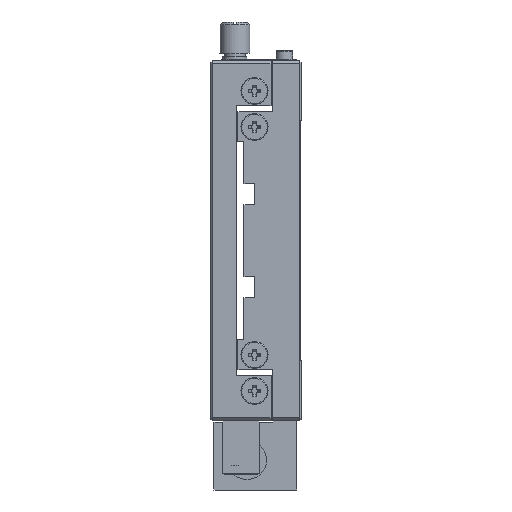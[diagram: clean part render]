
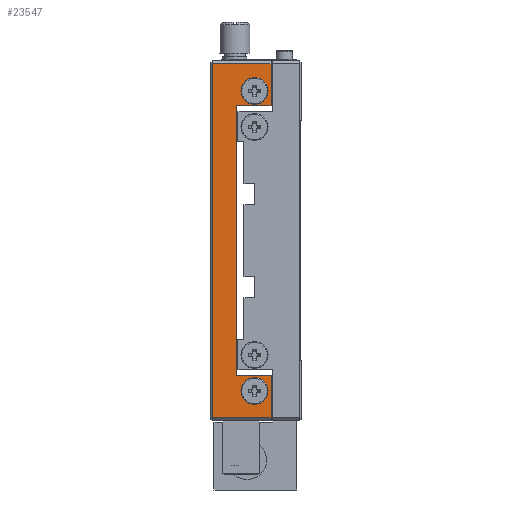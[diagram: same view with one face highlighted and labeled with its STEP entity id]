
A CAD part, left-side view. The second image highlights one B-rep face of the part: STEP entity #23547.
In plain terms, the highlighted planar face has unit normal (-1, 0, 0) as drawn and (0, 0, -1) by its records, which use the part's own axes.
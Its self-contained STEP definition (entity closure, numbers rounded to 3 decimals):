
#21 = CARTESIAN_POINT ( 'NONE',  ( 3.974, 41.182, -60. ) ) ;
#112 = DIRECTION ( 'NONE',  ( 0., -1., 0. ) ) ;
#177 = CARTESIAN_POINT ( 'NONE',  ( -86.826, 35.182, -60. ) ) ;
#593 = ORIENTED_EDGE ( 'NONE', *, *, #16649, .F. ) ;
#819 = CARTESIAN_POINT ( 'NONE',  ( 13.174, 43.582, -60. ) ) ;
#912 = VERTEX_POINT ( 'NONE', #20630 ) ;
#1522 = DIRECTION ( 'NONE',  ( 0., 1., 0. ) ) ;
#1585 = CARTESIAN_POINT ( 'NONE',  ( -95.226, 35.182, -60. ) ) ;
#1705 = DIRECTION ( 'NONE',  ( 0., -1., 0. ) ) ;
#1710 =( BOUNDED_CURVE ( )  B_SPLINE_CURVE ( 3, ( #4092, #22175, #12152, #177 ),
 .UNSPECIFIED., .F., .T. ) 
 B_SPLINE_CURVE_WITH_KNOTS ( ( 4, 4 ),
 ( 0.5, 1. ),
 .UNSPECIFIED. ) 
 CURVE ( )  GEOMETRIC_REPRESENTATION_ITEM ( )  RATIONAL_B_SPLINE_CURVE ( ( 1., 0.333, 0.333, 1. ) ) 
 REPRESENTATION_ITEM ( '' )  );
#2469 = CARTESIAN_POINT ( 'NONE',  ( -86.026, 41.182, -60. ) ) ;
#2964 = FACE_BOUND ( 'NONE', #6874, .T. ) ;
#3274 = VECTOR ( 'NONE', #112, 1000. ) ;
#3504 = ORIENTED_EDGE ( 'NONE', *, *, #15263, .F. ) ;
#3599 = ORIENTED_EDGE ( 'NONE', *, *, #24778, .F. ) ;
#3789 = CARTESIAN_POINT ( 'NONE',  ( -86.026, 29.682, -60. ) ) ;
#4030 = VERTEX_POINT ( 'NONE', #25716 ) ;
#4092 = CARTESIAN_POINT ( 'NONE',  ( -95.226, 35.182, -60. ) ) ;
#4316 = VECTOR ( 'NONE', #17989, 1000. ) ;
#4327 = VERTEX_POINT ( 'NONE', #17891 ) ;
#4351 = LINE ( 'NONE', #20490, #12818 ) ;
#4496 = VERTEX_POINT ( 'NONE', #1585 ) ;
#4499 = LINE ( 'NONE', #8591, #3274 ) ;
#4644 = CARTESIAN_POINT ( 'NONE',  ( 13.174, 26.782, -60. ) ) ;
#4734 = VECTOR ( 'NONE', #1522, 1000. ) ;
#5542 = LINE ( 'NONE', #18415, #4316 ) ;
#5949 = AXIS2_PLACEMENT_3D ( 'NONE', #6496, #10512, #24577 ) ;
#5968 = LINE ( 'NONE', #9372, #24279 ) ;
#6496 = CARTESIAN_POINT ( 'NONE',  ( 18.974, 49.682, -60. ) ) ;
#6874 = EDGE_LOOP ( 'NONE', ( #24183, #10684 ) ) ;
#7616 = FACE_BOUND ( 'NONE', #20010, .T. ) ;
#7816 = ORIENTED_EDGE ( 'NONE', *, *, #18020, .F. ) ;
#7988 = EDGE_CURVE ( 'NONE', #4327, #8660, #24168, .T. ) ;
#8591 = CARTESIAN_POINT ( 'NONE',  ( -100.026, 49.682, -60. ) ) ;
#8660 = VERTEX_POINT ( 'NONE', #20051 ) ;
#9282 = EDGE_CURVE ( 'NONE', #4030, #20500, #10814, .T. ) ;
#9366 = LINE ( 'NONE', #13808, #4734 ) ;
#9372 = CARTESIAN_POINT ( 'NONE',  ( 17.974, 49.682, -60. ) ) ;
#9394 = VECTOR ( 'NONE', #15078, 1000. ) ;
#9523 = DIRECTION ( 'NONE',  ( 0., 1., 0. ) ) ;
#9604 = DIRECTION ( 'NONE',  ( 1., 0., 0. ) ) ;
#9658 = EDGE_LOOP ( 'NONE', ( #24598, #25118, #14537, #593, #22855, #3504, #21196, #7816 ) ) ;
#10137 = VERTEX_POINT ( 'NONE', #18134 ) ;
#10512 = DIRECTION ( 'NONE',  ( 0., 0., 1. ) ) ;
#10663 = CARTESIAN_POINT ( 'NONE',  ( 4.774, 35.182, -60. ) ) ;
#10684 = ORIENTED_EDGE ( 'NONE', *, *, #25091, .F. ) ;
#10763 = CARTESIAN_POINT ( 'NONE',  ( 4.774, 35.182, -60. ) ) ;
#10768 = VERTEX_POINT ( 'NONE', #2469 ) ;
#10814 = LINE ( 'NONE', #24417, #12732 ) ;
#10824 = VERTEX_POINT ( 'NONE', #3789 ) ;
#11223 = CARTESIAN_POINT ( 'NONE',  ( -95.226, 26.782, -60. ) ) ;
#12152 = CARTESIAN_POINT ( 'NONE',  ( -86.826, 43.582, -60. ) ) ;
#12182 = CARTESIAN_POINT ( 'NONE',  ( 3.974, 41.182, -60. ) ) ;
#12732 = VECTOR ( 'NONE', #9604, 1000. ) ;
#12818 = VECTOR ( 'NONE', #1705, 1000. ) ;
#13233 =( BOUNDED_CURVE ( )  B_SPLINE_CURVE ( 3, ( #21261, #23273, #11223, #25298 ),
 .UNSPECIFIED., .F., .T. ) 
 B_SPLINE_CURVE_WITH_KNOTS ( ( 4, 4 ),
 ( 0., 0.5 ),
 .UNSPECIFIED. ) 
 CURVE ( )  GEOMETRIC_REPRESENTATION_ITEM ( )  RATIONAL_B_SPLINE_CURVE ( ( 1., 0.333, 0.333, 1. ) ) 
 REPRESENTATION_ITEM ( '' )  );
#13783 = CARTESIAN_POINT ( 'NONE',  ( -86.826, 35.182, -60. ) ) ;
#13808 = CARTESIAN_POINT ( 'NONE',  ( -86.026, 49.682, -60. ) ) ;
#14037 = VERTEX_POINT ( 'NONE', #21 ) ;
#14069 = EDGE_CURVE ( 'NONE', #14037, #4030, #4351, .T. ) ;
#14537 = ORIENTED_EDGE ( 'NONE', *, *, #18012, .T. ) ;
#14642 = CARTESIAN_POINT ( 'NONE',  ( 17.974, 29.682, -60. ) ) ;
#14818 = CARTESIAN_POINT ( 'NONE',  ( 13.174, 35.182, -60. ) ) ;
#15078 = DIRECTION ( 'NONE',  ( 1., 0., 0. ) ) ;
#15263 = EDGE_CURVE ( 'NONE', #10137, #20507, #4499, .T. ) ;
#16649 = EDGE_CURVE ( 'NONE', #10824, #10768, #9366, .T. ) ;
#17155 = EDGE_CURVE ( 'NONE', #20507, #10824, #24211, .T. ) ;
#17864 = EDGE_CURVE ( 'NONE', #10137, #912, #5542, .T. ) ;
#17891 = CARTESIAN_POINT ( 'NONE',  ( 4.774, 35.182, -60. ) ) ;
#17989 = DIRECTION ( 'NONE',  ( 1., 0., 0. ) ) ;
#18012 = EDGE_CURVE ( 'NONE', #14037, #10768, #23965, .T. ) ;
#18020 = EDGE_CURVE ( 'NONE', #20500, #912, #5968, .T. ) ;
#18134 = CARTESIAN_POINT ( 'NONE',  ( -100.026, 49.182, -60. ) ) ;
#18294 = FACE_OUTER_BOUND ( 'NONE', #9658, .T. ) ;
#18415 = CARTESIAN_POINT ( 'NONE',  ( -101.026, 49.182, -60. ) ) ;
#18493 = PLANE ( 'NONE',  #5949 ) ;
#18890 =( BOUNDED_CURVE ( )  B_SPLINE_CURVE ( 3, ( #20696, #4644, #22719, #10663 ),
 .UNSPECIFIED., .F., .T. ) 
 B_SPLINE_CURVE_WITH_KNOTS ( ( 4, 4 ),
 ( 0., 0.5 ),
 .UNSPECIFIED. ) 
 CURVE ( )  GEOMETRIC_REPRESENTATION_ITEM ( )  RATIONAL_B_SPLINE_CURVE ( ( 1., 0.333, 0.333, 1. ) ) 
 REPRESENTATION_ITEM ( '' )  );
#19030 = CARTESIAN_POINT ( 'NONE',  ( 18.974, 29.682, -60. ) ) ;
#19734 = VERTEX_POINT ( 'NONE', #13783 ) ;
#19921 = ORIENTED_EDGE ( 'NONE', *, *, #7988, .F. ) ;
#20010 = EDGE_LOOP ( 'NONE', ( #3599, #19921 ) ) ;
#20051 = CARTESIAN_POINT ( 'NONE',  ( 13.174, 35.182, -60. ) ) ;
#20490 = CARTESIAN_POINT ( 'NONE',  ( 3.974, 49.682, -60. ) ) ;
#20500 = VERTEX_POINT ( 'NONE', #14642 ) ;
#20507 = VERTEX_POINT ( 'NONE', #24739 ) ;
#20630 = CARTESIAN_POINT ( 'NONE',  ( 17.974, 49.182, -60. ) ) ;
#20696 = CARTESIAN_POINT ( 'NONE',  ( 13.174, 35.182, -60. ) ) ;
#21196 = ORIENTED_EDGE ( 'NONE', *, *, #17864, .T. ) ;
#21261 = CARTESIAN_POINT ( 'NONE',  ( -86.826, 35.182, -60. ) ) ;
#21366 = VECTOR ( 'NONE', #24234, 1000. ) ;
#22175 = CARTESIAN_POINT ( 'NONE',  ( -95.226, 43.582, -60. ) ) ;
#22719 = CARTESIAN_POINT ( 'NONE',  ( 4.774, 26.782, -60. ) ) ;
#22827 = CARTESIAN_POINT ( 'NONE',  ( 4.774, 43.582, -60. ) ) ;
#22855 = ORIENTED_EDGE ( 'NONE', *, *, #17155, .F. ) ;
#23273 = CARTESIAN_POINT ( 'NONE',  ( -86.826, 26.782, -60. ) ) ;
#23547 = ADVANCED_FACE ( 'NONE', ( #2964, #7616, #18294 ), #18493, .F. ) ;
#23965 = LINE ( 'NONE', #12182, #21366 ) ;
#24168 =( BOUNDED_CURVE ( )  B_SPLINE_CURVE ( 3, ( #10763, #22827, #819, #14818 ),
 .UNSPECIFIED., .F., .F. ) 
 B_SPLINE_CURVE_WITH_KNOTS ( ( 4, 4 ),
 ( 0.5, 1. ),
 .UNSPECIFIED. ) 
 CURVE ( )  GEOMETRIC_REPRESENTATION_ITEM ( )  RATIONAL_B_SPLINE_CURVE ( ( 1., 0.333, 0.333, 1. ) ) 
 REPRESENTATION_ITEM ( '' )  );
#24183 = ORIENTED_EDGE ( 'NONE', *, *, #25924, .F. ) ;
#24211 = LINE ( 'NONE', #19030, #9394 ) ;
#24234 = DIRECTION ( 'NONE',  ( -1., 0., 0. ) ) ;
#24279 = VECTOR ( 'NONE', #9523, 1000. ) ;
#24417 = CARTESIAN_POINT ( 'NONE',  ( 18.974, 29.682, -60. ) ) ;
#24577 = DIRECTION ( 'NONE',  ( 0., -1., 0. ) ) ;
#24598 = ORIENTED_EDGE ( 'NONE', *, *, #9282, .F. ) ;
#24739 = CARTESIAN_POINT ( 'NONE',  ( -100.026, 29.682, -60. ) ) ;
#24778 = EDGE_CURVE ( 'NONE', #8660, #4327, #18890, .T. ) ;
#25091 = EDGE_CURVE ( 'NONE', #4496, #19734, #1710, .T. ) ;
#25118 = ORIENTED_EDGE ( 'NONE', *, *, #14069, .F. ) ;
#25298 = CARTESIAN_POINT ( 'NONE',  ( -95.226, 35.182, -60. ) ) ;
#25716 = CARTESIAN_POINT ( 'NONE',  ( 3.974, 29.682, -60. ) ) ;
#25924 = EDGE_CURVE ( 'NONE', #19734, #4496, #13233, .T. ) ;
